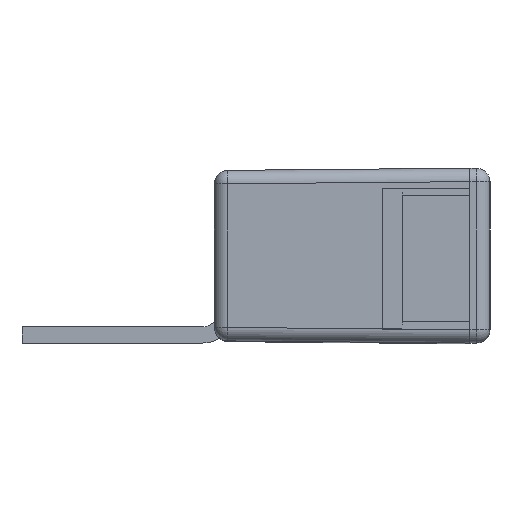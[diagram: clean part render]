
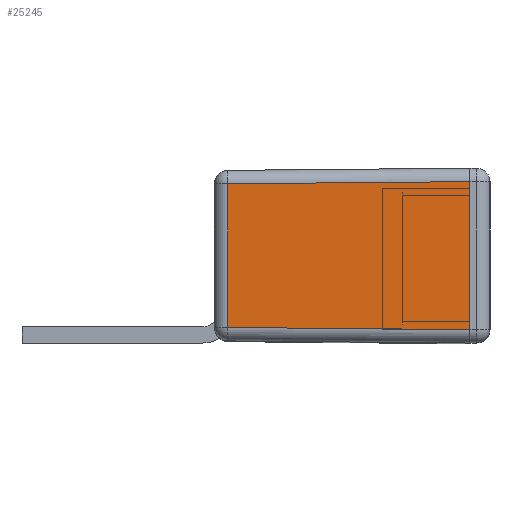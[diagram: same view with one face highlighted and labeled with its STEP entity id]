
A CAD part, left-side view. The second image highlights one B-rep face of the part: STEP entity #25245.
In plain terms, the highlighted planar face has unit normal (-1, 0.009, 0) as drawn and (1, 0, -0.009) by its records, which use the part's own axes.
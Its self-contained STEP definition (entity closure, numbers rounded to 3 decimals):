
#16648=DIRECTION('',(0.,-1.,0.));
#16649=VECTOR('',#16648,11.);
#16650=CARTESIAN_POINT('',(182.75,5.5,19.));
#16651=LINE('',#16650,#16649);
#16656=CARTESIAN_POINT('',(182.75,-5.5,19.));
#19008=DIRECTION('',(0.009,-0.009,1.));
#19009=VECTOR('',#19008,18.01);
#19010=CARTESIAN_POINT('',(182.593,-5.343,
0.991));
#19011=LINE('',#19010,#19009);
#19012=DIRECTION('',(0.009,0.009,1.));
#19013=VECTOR('',#19012,18.01);
#19014=CARTESIAN_POINT('',(182.593,5.343,
0.991));
#19015=LINE('',#19014,#19013);
#19016=DIRECTION('',(0.,-1.,0.));
#19017=VECTOR('',#19016,10.686);
#19018=CARTESIAN_POINT('',(182.593,5.343,
0.991));
#19019=LINE('',#19018,#19017);
#21739=VERTEX_POINT('',#16656);
#21740=CARTESIAN_POINT('',(182.593,-5.343,
0.991));
#21741=VERTEX_POINT('',#21740);
#21768=CARTESIAN_POINT('',(182.75,5.5,19.));
#21769=VERTEX_POINT('',#21768);
#21844=CARTESIAN_POINT('',(182.593,5.343,
0.991));
#21845=VERTEX_POINT('',#21844);
#25232=CARTESIAN_POINT('',(182.75,9.602,19.));
#25233=DIRECTION('',(1.,0.,-0.009));
#25234=DIRECTION('',(0.,1.,0.));
#25235=AXIS2_PLACEMENT_3D('',#25232,#25233,#25234);
#25236=PLANE('',#25235);
#25237=ORIENTED_EDGE('',*,*,#25225,.T.);
#25238=ORIENTED_EDGE('',*,*,#22255,.F.);
#25240=ORIENTED_EDGE('',*,*,#25239,.F.);
#25242=ORIENTED_EDGE('',*,*,#25241,.T.);
#25243=EDGE_LOOP('',(#25237,#25238,#25240,#25242));
#25244=FACE_OUTER_BOUND('',#25243,.F.);
#25245=ADVANCED_FACE('',(#25244),#25236,.T.);
#22255=EDGE_CURVE('',#21769,#21739,#16651,.T.);
#25225=EDGE_CURVE('',#21741,#21739,#19011,.T.);
#25239=EDGE_CURVE('',#21845,#21769,#19015,.T.);
#25241=EDGE_CURVE('',#21845,#21741,#19019,.T.);
